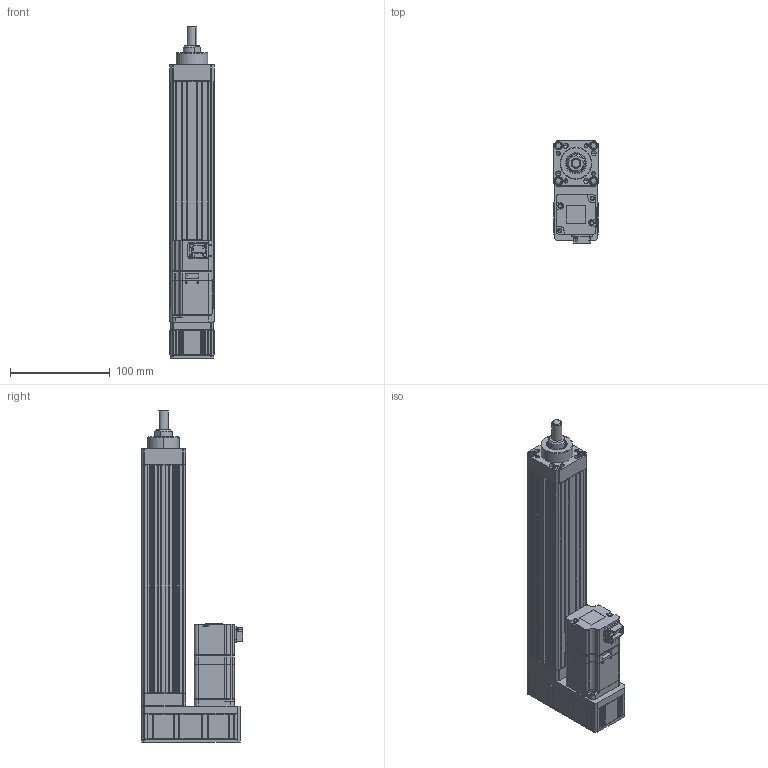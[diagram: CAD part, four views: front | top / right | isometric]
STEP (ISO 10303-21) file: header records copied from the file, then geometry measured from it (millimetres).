
FILE_DESCRIPTION (( 'STEP AP203' ), '1' );
FILE_NAME ('ANS045-P150-05(10)-W10-M.STEP', '2019-02-14T02:56:38', ( 'user' ), ( '' ), 'SwSTEP 2.0', 'SolidWorks 2013', '' );
FILE_SCHEMA (( 'CONFIG_CONTROL_DESIGN' ));
Length unit declared in the file: millimetre
Products named in the file (4): ANS045-P150-05(10)-W10-M; ANS045 P150 VER2; ANS045 ROD ST150 M; SGMJV_01A_A21
Assembly tree (3 placements, depth 2):
  ANS045-P150-05(10)-W10-M
    ANS045 P150 VER2
    ANS045 ROD ST150 M
    SGMJV_01A_A21
Bounding box: 45 x 102.3 x 333.5 mm (x, y, z)
Volume: 544905 mm3; surface area: 174059.9 mm2
Topology: 3 solids, 11 shells, 1060 faces, 2747 edges, 1750 vertices
Faces by surface type: plane 607, cylinder 355, cone 96, bspline 2
Entity records: 32395 total; most frequent: CARTESIAN_POINT 6241, ORIENTED_EDGE 5462, DIRECTION 5267, EDGE_CURVE 2731, VECTOR 1891, LINE 1891, VERTEX_POINT 1750, AXIS2_PLACEMENT_3D 1688
